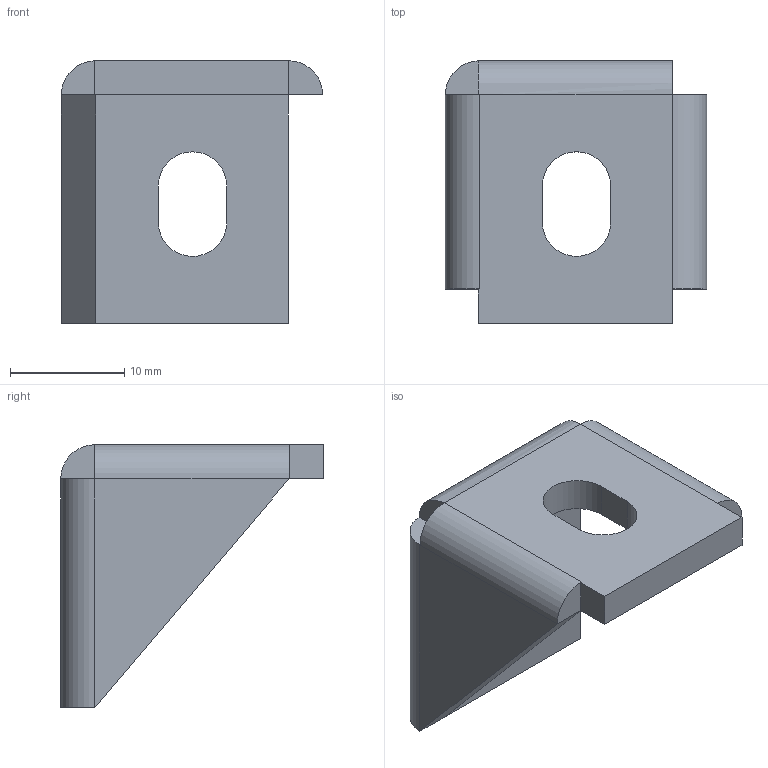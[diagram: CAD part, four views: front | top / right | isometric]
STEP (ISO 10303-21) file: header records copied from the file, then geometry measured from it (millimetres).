
FILE_DESCRIPTION(/* description */ ('STEP AP242 Edition 2','CAx-IF Rec.Pracs.---Representation and Presentation of Product Manufacturing Information (PMI)---4.0---2014-10-13','CAx-IF Rec.Pracs.---3D Tessellated Geometry---0.4---2014-09-14','2;1','CAx-IF Rec.Pracs.---User Defined Attributes---1.5---2016-08-15'),/* implementation_level */ '2;1');
FILE_NAME(/* name */ 'Assembly 1 - Part 10 (4)',/* time_stamp */ '2026-10-08T06:00:12Z',/* author */ (''),/* organization */ (''),/* preprocessor_version */ 'ST-DEVELOPER v20',/* originating_system */ 'ONSHAPE BY PTC INC, 1.221',/* authorisation */ ' ');
FILE_SCHEMA (('AP242_MANAGED_MODEL_BASED_3D_ENGINEERING_MIM_LF { 1 0 10303 442 3 1 4 }'));
Length unit declared in the file: metre
Products named in the file (1): Part 10
Bounding box: 22.9 x 23 x 23 mm (x, y, z)
Volume: 2756.5 mm3; surface area: 2354.4 mm2
Topology: 1 solids, 1 shells, 32 faces, 77 edges, 47 vertices
Faces by surface type: bspline 32
Entity records: 985 total; most frequent: CARTESIAN_POINT 297, ORIENTED_EDGE 154, DIRECTION 101, EDGE_CURVE 77, LINE 55, VECTOR 55, VERTEX_POINT 47, EDGE_LOOP 36
